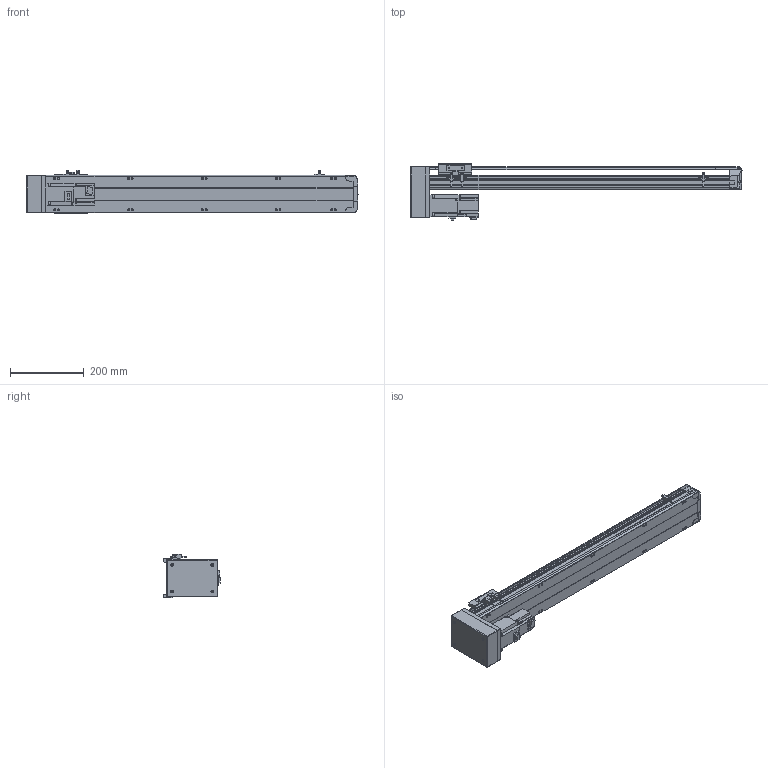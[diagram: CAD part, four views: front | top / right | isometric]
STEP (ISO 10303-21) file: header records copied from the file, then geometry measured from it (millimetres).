
FILE_DESCRIPTION( ( 'STEP AP214' ), '1' );
FILE_NAME( 'x:/temp/worker_27/temp/exporttempdir_6708_75_HQy9u/format_0/PSS120-L10-S650-BM-T40-C1-N(0).stp', '2022-06-06T00:26:45', ( 'License CC BY-ND 4.0' ), ( 'CADENAS' ), ' ', 'PARTsolutions', ' ' );
FILE_SCHEMA( ( 'AUTOMOTIVE_DESIGN { 1 0 10303 214 1 1 1 1 }' ) );
Length unit declared in the file: millimetre
Products named in the file (8): PSS120-L10-S650-BM-T40-C1-N(0); _PSS120-S650-BM-C1-N_body; _PSS120-N_Q; _PSS120-BM-C1-N_sl; _PSS120-N_sensor; _PSS120BM-N_h; _T40-p1; _PSS120-S650-BM-N_S
Assembly tree (9 placements, depth 2):
  PSS120-L10-S650-BM-T40-C1-N(0)
    _PSS120-S650-BM-C1-N_body
    _PSS120-N_Q
    _PSS120-BM-C1-N_sl
    _PSS120-N_sensor  x3
    _PSS120BM-N_h
    _T40-p1
    _PSS120-S650-BM-N_S
Bounding box: 899.35 x 151.8 x 117.7 mm (x, y, z)
Volume: 3816081.9 mm3; surface area: 624193.8 mm2
Topology: 9 solids, 9 shells, 825 faces, 2221 edges, 1474 vertices
Faces by surface type: plane 574, cylinder 229, cone 18, sphere 4
Full cylindrical faces by diameter (mm): 2.8 x3, 4 x4, 4.134 x14, 4.4 x2, 4.5 x4, 4.6 x3, 5 x6, 5.5 x17, 7 x2, 7.4 x4, 8 x4, 8.5 x14, 14 x1, 28 x1, 32 x2, 50 x1
Entity records: 28369 total; most frequent: CARTESIAN_POINT 4412, DIRECTION 3705, ORIENTED_EDGE 3634, EDGE_CURVE 1817, LINE 1295, VECTOR 1295, VERTEX_POINT 1262, AXIS2_PLACEMENT_3D 1205
